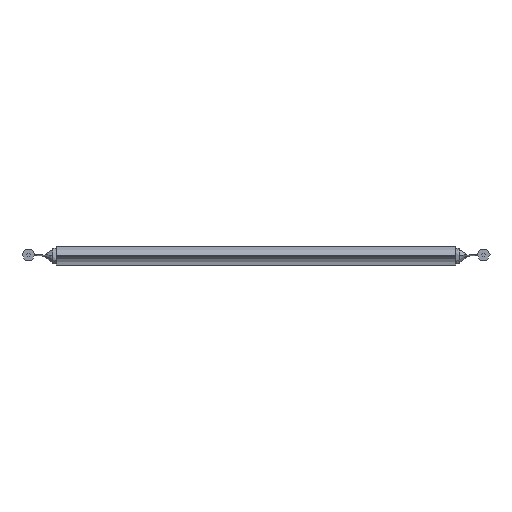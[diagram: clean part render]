
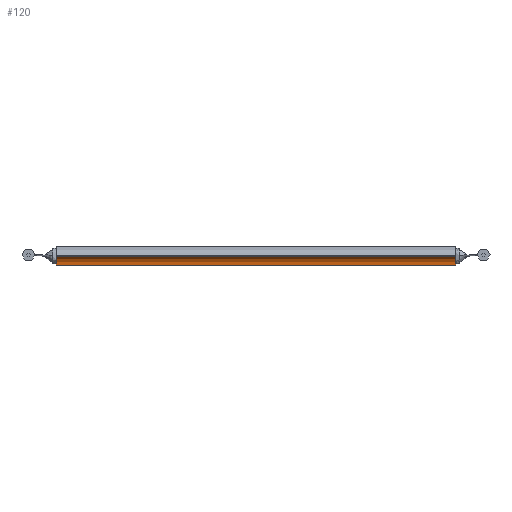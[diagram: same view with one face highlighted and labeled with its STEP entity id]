
A CAD part, top view. The second image highlights one B-rep face of the part: STEP entity #120.
In plain terms, the highlighted cylindrical face has radius 15 mm (diameter 30 mm), a partial arc.
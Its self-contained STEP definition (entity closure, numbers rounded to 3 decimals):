
#120=ADVANCED_FACE('',(#223),#1714,.F.);
#223=FACE_OUTER_BOUND('',#334,.T.);
#334=EDGE_LOOP('',(#830,#831,#832,#833));
#830=ORIENTED_EDGE('',*,*,#1154,.F.);
#831=ORIENTED_EDGE('',*,*,#1137,.F.);
#832=ORIENTED_EDGE('',*,*,#1155,.F.);
#833=ORIENTED_EDGE('',*,*,#1134,.F.);
#1134=EDGE_CURVE('',#1588,#1577,#1876,.T.);
#1137=EDGE_CURVE('',#1578,#1587,#1879,.T.);
#1154=EDGE_CURVE('',#1587,#1588,#1297,.T.);
#1155=EDGE_CURVE('',#1577,#1578,#1298,.T.);
#1297=TRIMMED_CURVE($,#1403,(#4100),(#4101),.T.,.CARTESIAN.);
#1298=TRIMMED_CURVE($,#1404,(#4103),(#4104),.T.,.CARTESIAN.);
#1403=CIRCLE('',#2136,15.);
#1404=CIRCLE('',#2137,15.);
#1577=VERTEX_POINT('',#3919);
#1578=VERTEX_POINT('',#3920);
#1587=VERTEX_POINT('',#3929);
#1588=VERTEX_POINT('',#3930);
#1714=CYLINDRICAL_SURFACE('',#2110,15.);
#1876=B_SPLINE_CURVE_WITH_KNOTS('',1,(#4049,#4050),.UNSPECIFIED.,.F.,.F.,
(2,2),(0.,600.),.UNSPECIFIED.);
#1879=B_SPLINE_CURVE_WITH_KNOTS('',1,(#4055,#4056),.UNSPECIFIED.,.F.,.F.,
(2,2),(0.,600.),.UNSPECIFIED.);
#2110=AXIS2_PLACEMENT_3D('',#3879,#2370,$);
#2136=AXIS2_PLACEMENT_3D($,#4099,#2414,#2415);
#2137=AXIS2_PLACEMENT_3D($,#4102,#2416,#2417);
#2370=DIRECTION('',(-1.,0.,0.));
#2414=DIRECTION('',(-1.,0.,0.));
#2415=DIRECTION('',(0.,0.866,-0.5));
#2416=DIRECTION('',(1.,0.,0.));
#2417=DIRECTION('',(0.,0.,-1.));
#3879=CARTESIAN_POINT('',(3423.52,654.569,42.911));
#3919=CARTESIAN_POINT('',(3123.52,654.569,27.911));
#3920=CARTESIAN_POINT('',(3123.52,667.559,35.411));
#3929=CARTESIAN_POINT('',(3723.52,667.559,35.411));
#3930=CARTESIAN_POINT('',(3723.52,654.569,27.911));
#4049=CARTESIAN_POINT('',(3723.52,654.569,27.911));
#4050=CARTESIAN_POINT('',(3123.52,654.569,27.911));
#4055=CARTESIAN_POINT('',(3123.52,667.559,35.411));
#4056=CARTESIAN_POINT('',(3723.52,667.559,35.411));
#4099=CARTESIAN_POINT('',(3723.52,654.569,42.911));
#4100=CARTESIAN_POINT('',(3723.52,667.559,35.411));
#4101=CARTESIAN_POINT('',(3723.52,654.569,27.911));
#4102=CARTESIAN_POINT('',(3123.52,654.569,42.911));
#4103=CARTESIAN_POINT('',(3123.52,654.569,27.911));
#4104=CARTESIAN_POINT('',(3123.52,667.559,35.411));
